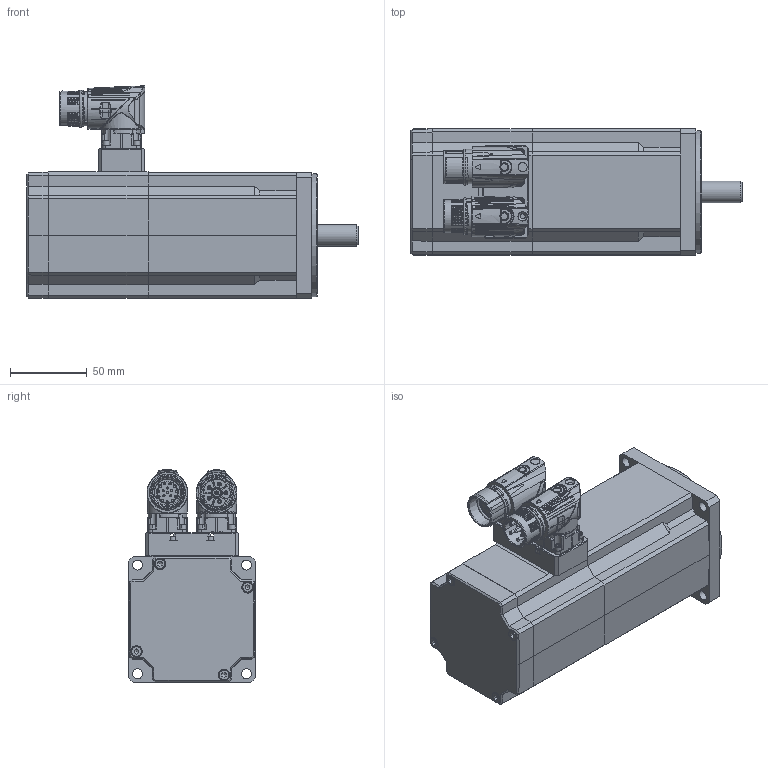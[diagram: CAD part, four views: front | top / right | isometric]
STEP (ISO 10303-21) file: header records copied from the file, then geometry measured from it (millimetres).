
FILE_DESCRIPTION(/* description */ (''),/* implementation_level */ '2;1');
FILE_NAME(/* name */ 'D:\InventorWorkspace2017\CAD\Projekte_EDEM\HLR\Zubehörteile\SMH826003814S2I64A72.stp',/* time_stamp */ '2019-02-13T12:30:58+01:00',/* author */ ('544672'),/* organization */ (''),/* preprocessor_version */ 'ST-DEVELOPER v16.5',/* originating_system */ 'Autodesk Inventor 2017',/* authorisation */ '');
FILE_SCHEMA (('AUTOMOTIVE_DESIGN { 1 0 10303 214 3 1 1 }'));
Products named in the file (1): SMH826003814S2I64A72
Bounding box: 216 x 82.45 x 138.43 mm (x, y, z)
Volume: 1163747.3 mm3; surface area: 102937.7 mm2
Topology: 1 solids, 1 shells, 2329 faces, 5880 edges, 3589 vertices
Faces by surface type: plane 698, cylinder 630, bspline 561, torus 210, cone 180, sphere 50
Full cylindrical faces by diameter (mm): 1.2 x15, 2 x6, 2.15 x6, 3 x4, 3.1 x4, 4.5 x10, 5.5 x5, 5.9 x2, 6.5 x4, 7 x4, 7.5 x4, 8.5 x4, 14 x1, 19.16 x1, 21.15 x2, 21.6 x2, 21.8 x1, 21.9 x1, 24.4 x1, 24.8 x1, 25 x2, 72 x1, 74 x1, 80 x1
Entity records: 118536 total; most frequent: CARTESIAN_POINT 64346, ORIENTED_EDGE 11190, DIRECTION 10205, EDGE_CURVE 5595, AXIS2_PLACEMENT_3D 4160, VERTEX_POINT 3509, EDGE_LOOP 2598, ADVANCED_FACE 2327
